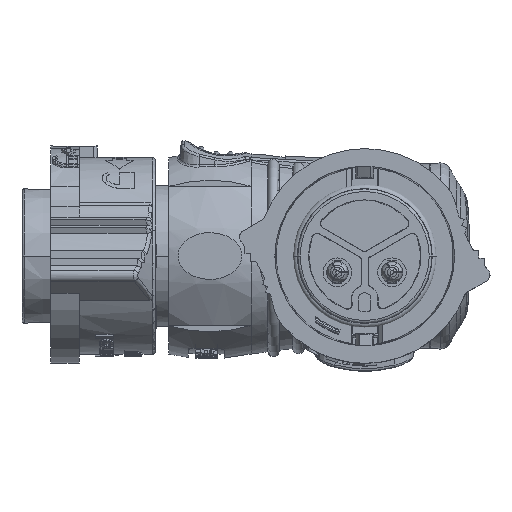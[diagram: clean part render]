
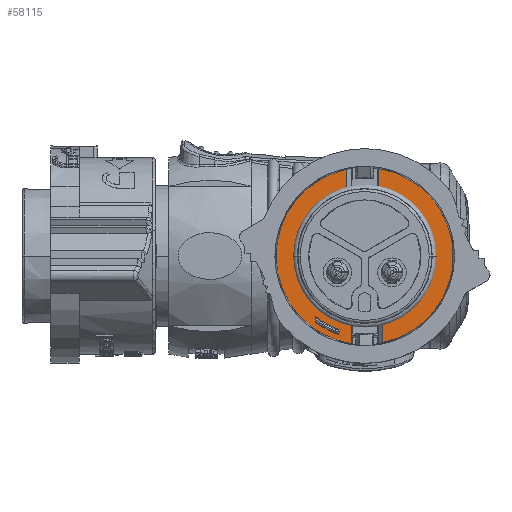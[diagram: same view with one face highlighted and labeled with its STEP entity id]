
A CAD part, left-side view. The second image highlights one B-rep face of the part: STEP entity #58115.
In plain terms, the highlighted planar face has unit normal (-1, 0, 0).
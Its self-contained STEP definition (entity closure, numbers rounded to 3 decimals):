
#13940=CARTESIAN_POINT('',(8.5,0.,0.));
#13941=DIRECTION('',(-1.,0.,0.));
#13942=DIRECTION('',(0.,0.19,-0.982));
#13943=AXIS2_PLACEMENT_3D('',#13940,#13941,#13942);
#13980=CARTESIAN_POINT('',(8.5,0.,0.));
#13981=DIRECTION('',(-1.,0.,0.));
#13982=DIRECTION('',(0.,-0.19,0.982));
#13983=AXIS2_PLACEMENT_3D('',#13980,#13981,#13982);
#14160=CARTESIAN_POINT('',(8.5,-2.,-9.696));
#14165=CARTESIAN_POINT('',(8.5,0.,0.));
#14166=DIRECTION('',(-1.,0.,0.));
#14167=DIRECTION('',(0.,-0.202,-0.979));
#14168=AXIS2_PLACEMENT_3D('',#14165,#14166,#14167);
#14192=DIRECTION('',(0.,0.,-1.));
#14193=VECTOR('',#14192,2.053);
#14194=CARTESIAN_POINT('',(8.5,-2.,-7.643));
#14195=LINE('',#14194,#14193);
#14196=DIRECTION('',(0.,0.,1.));
#14197=VECTOR('',#14196,2.029);
#14198=CARTESIAN_POINT('',(8.5,1.5,-9.786));
#14199=LINE('',#14198,#14197);
#14200=DIRECTION('',(0.,0.,1.));
#14201=VECTOR('',#14200,2.053);
#14202=CARTESIAN_POINT('',(8.5,2.,7.643));
#14203=LINE('',#14202,#14201);
#14204=DIRECTION('',(0.,0.,-1.));
#14205=VECTOR('',#14204,2.029);
#14206=CARTESIAN_POINT('',(8.5,-1.5,9.786));
#14207=LINE('',#14206,#14205);
#14208=CARTESIAN_POINT('',(8.5,-0.132,-0.01));
#14209=DIRECTION('',(-1.,0.,0.));
#14210=DIRECTION('',(0.,0.606,-0.796));
#14211=AXIS2_PLACEMENT_3D('',#14208,#14209,#14210);
#14213=DIRECTION('',(0.,-0.316,0.949));
#14214=VECTOR('',#14213,0.567);
#14215=CARTESIAN_POINT('',(8.5,2.933,-8.791));
#14216=LINE('',#14215,#14214);
#14217=CARTESIAN_POINT('',(8.5,0.,0.));
#14218=DIRECTION('',(-1.,0.,0.));
#14219=DIRECTION('',(0.,0.632,-0.775));
#14220=AXIS2_PLACEMENT_3D('',#14217,#14218,#14219);
#14222=DIRECTION('',(0.,0.,-1.));
#14223=VECTOR('',#14222,0.67);
#14224=CARTESIAN_POINT('',(8.5,5.5,-6.741));
#14225=LINE('',#14224,#14223);
#14226=CARTESIAN_POINT('',(8.5,0.,0.));
#14227=DIRECTION('',(-1.,0.,0.));
#14228=DIRECTION('',(0.,0.998,0.065));
#14229=AXIS2_PLACEMENT_3D('',#14226,#14227,#14228);
#14231=DIRECTION('',(0.,-1.,0.));
#14232=VECTOR('',#14231,0.1);
#14233=CARTESIAN_POINT('',(8.5,7.634,-0.5));
#14234=LINE('',#14233,#14232);
#14235=DIRECTION('',(0.,0.,-1.));
#14236=VECTOR('',#14235,0.1);
#14237=CARTESIAN_POINT('',(8.5,0.5,-7.533));
#14238=LINE('',#14237,#14236);
#14239=CARTESIAN_POINT('',(8.5,0.,0.));
#14240=DIRECTION('',(-1.,0.,0.));
#14241=DIRECTION('',(0.,0.065,-0.998));
#14242=AXIS2_PLACEMENT_3D('',#14239,#14240,#14241);
#14244=DIRECTION('',(0.,0.,1.));
#14245=VECTOR('',#14244,0.1);
#14246=CARTESIAN_POINT('',(8.5,-0.5,-7.634));
#14247=LINE('',#14246,#14245);
#14248=DIRECTION('',(0.,-1.,0.));
#14249=VECTOR('',#14248,0.1);
#14250=CARTESIAN_POINT('',(8.5,-7.533,-0.5));
#14251=LINE('',#14250,#14249);
#14252=CARTESIAN_POINT('',(8.5,0.,0.));
#14253=DIRECTION('',(-1.,0.,0.));
#14254=DIRECTION('',(0.,-0.998,-0.065));
#14255=AXIS2_PLACEMENT_3D('',#14252,#14253,#14254);
#14257=DIRECTION('',(0.,1.,0.));
#14258=VECTOR('',#14257,0.1);
#14259=CARTESIAN_POINT('',(8.5,-7.634,0.5));
#14260=LINE('',#14259,#14258);
#14261=DIRECTION('',(0.,0.,1.));
#14262=VECTOR('',#14261,0.1);
#14263=CARTESIAN_POINT('',(8.5,-0.5,7.533));
#14264=LINE('',#14263,#14262);
#14265=CARTESIAN_POINT('',(8.5,0.,0.));
#14266=DIRECTION('',(-1.,0.,0.));
#14267=DIRECTION('',(0.,-0.065,0.998));
#14268=AXIS2_PLACEMENT_3D('',#14265,#14266,#14267);
#14270=DIRECTION('',(0.,0.,-1.));
#14271=VECTOR('',#14270,0.1);
#14272=CARTESIAN_POINT('',(8.5,0.5,7.634));
#14273=LINE('',#14272,#14271);
#14274=DIRECTION('',(0.,1.,0.));
#14275=VECTOR('',#14274,0.1);
#14276=CARTESIAN_POINT('',(8.5,7.533,0.5));
#14277=LINE('',#14276,#14275);
#14311=CARTESIAN_POINT('',(8.5,2.,9.696));
#14316=CARTESIAN_POINT('',(8.5,0.,0.));
#14317=DIRECTION('',(-1.,0.,0.));
#14318=DIRECTION('',(0.,0.202,0.979));
#14319=AXIS2_PLACEMENT_3D('',#14316,#14317,#14318);
#22615=CARTESIAN_POINT('',(8.5,0.,0.));
#22616=DIRECTION('',(1.,0.,0.));
#22617=DIRECTION('',(0.,0.066,-0.998));
#22618=AXIS2_PLACEMENT_3D('',#22615,#22616,#22617);
#22645=CARTESIAN_POINT('',(8.5,0.,0.));
#22646=DIRECTION('',(1.,0.,0.));
#22647=DIRECTION('',(0.,-0.998,-0.066));
#22648=AXIS2_PLACEMENT_3D('',#22645,#22646,#22647);
#22671=CARTESIAN_POINT('',(8.5,0.,0.));
#22672=DIRECTION('',(1.,0.,0.));
#22673=DIRECTION('',(0.,-0.066,0.998));
#22674=AXIS2_PLACEMENT_3D('',#22671,#22672,#22673);
#22688=CARTESIAN_POINT('',(8.5,0.,0.));
#22689=DIRECTION('',(1.,0.,0.));
#22690=DIRECTION('',(0.,0.998,0.066));
#22691=AXIS2_PLACEMENT_3D('',#22688,#22689,#22690);
#38994=CARTESIAN_POINT('',(8.5,1.5,-9.786));
#38995=CARTESIAN_POINT('',(8.5,1.5,-7.756));
#38996=VERTEX_POINT('',#38994);
#38997=VERTEX_POINT('',#38995);
#38998=CARTESIAN_POINT('',(8.5,-1.5,9.786));
#38999=CARTESIAN_POINT('',(8.5,-1.5,7.756));
#39000=VERTEX_POINT('',#38998);
#39001=VERTEX_POINT('',#38999);
#39144=CARTESIAN_POINT('',(8.5,5.5,-7.411));
#39145=CARTESIAN_POINT('',(8.5,2.933,-8.791));
#39146=VERTEX_POINT('',#39144);
#39147=VERTEX_POINT('',#39145);
#39148=CARTESIAN_POINT('',(8.5,5.5,-6.741));
#39149=CARTESIAN_POINT('',(8.5,2.753,-8.253));
#39150=VERTEX_POINT('',#39148);
#39151=VERTEX_POINT('',#39149);
#39204=VERTEX_POINT('',#14160);
#39208=CARTESIAN_POINT('',(8.5,-2.,-7.643));
#39209=VERTEX_POINT('',#39208);
#39210=VERTEX_POINT('',#14311);
#39214=CARTESIAN_POINT('',(8.5,2.,7.643));
#39215=VERTEX_POINT('',#39214);
#39266=CARTESIAN_POINT('',(8.5,0.5,7.533));
#39268=VERTEX_POINT('',#39266);
#39269=CARTESIAN_POINT('',(8.5,-0.5,7.533));
#39271=VERTEX_POINT('',#39269);
#39277=CARTESIAN_POINT('',(8.5,-0.5,7.634));
#39278=CARTESIAN_POINT('',(8.5,0.5,7.634));
#39279=VERTEX_POINT('',#39277);
#39280=VERTEX_POINT('',#39278);
#39282=CARTESIAN_POINT('',(8.5,-7.533,0.5));
#39284=VERTEX_POINT('',#39282);
#39285=CARTESIAN_POINT('',(8.5,-7.533,-0.5));
#39287=VERTEX_POINT('',#39285);
#39293=CARTESIAN_POINT('',(8.5,-7.634,-0.5));
#39294=VERTEX_POINT('',#39293);
#39295=CARTESIAN_POINT('',(8.5,-7.634,0.5));
#39296=VERTEX_POINT('',#39295);
#39298=CARTESIAN_POINT('',(8.5,-0.5,-7.533));
#39300=VERTEX_POINT('',#39298);
#39301=CARTESIAN_POINT('',(8.5,0.5,-7.533));
#39303=VERTEX_POINT('',#39301);
#39309=CARTESIAN_POINT('',(8.5,0.5,-7.634));
#39310=VERTEX_POINT('',#39309);
#39311=CARTESIAN_POINT('',(8.5,-0.5,-7.634));
#39312=VERTEX_POINT('',#39311);
#39314=CARTESIAN_POINT('',(8.5,7.533,-0.5));
#39316=VERTEX_POINT('',#39314);
#39317=CARTESIAN_POINT('',(8.5,7.533,0.5));
#39319=VERTEX_POINT('',#39317);
#39325=CARTESIAN_POINT('',(8.5,7.634,0.5));
#39326=VERTEX_POINT('',#39325);
#39327=CARTESIAN_POINT('',(8.5,7.634,-0.5));
#39328=VERTEX_POINT('',#39327);
#58052=CARTESIAN_POINT('',(8.5,0.,0.));
#58053=DIRECTION('',(1.,0.,0.));
#58054=DIRECTION('',(0.,1.,0.));
#58055=AXIS2_PLACEMENT_3D('',#58052,#58053,#58054);
#58056=PLANE('',#58055);
#58057=ORIENTED_EDGE('',*,*,#58047,.F.);
#58058=ORIENTED_EDGE('',*,*,#57760,.F.);
#58060=ORIENTED_EDGE('',*,*,#58059,.F.);
#58062=ORIENTED_EDGE('',*,*,#58061,.F.);
#58064=ORIENTED_EDGE('',*,*,#58063,.F.);
#58065=ORIENTED_EDGE('',*,*,#57799,.F.);
#58067=ORIENTED_EDGE('',*,*,#58066,.F.);
#58068=ORIENTED_EDGE('',*,*,#58018,.F.);
#58069=EDGE_LOOP('',(#58057,#58058,#58060,#58062,#58064,#58065,#58067,#58068));
#58070=FACE_OUTER_BOUND('',#58069,.F.);
#58072=ORIENTED_EDGE('',*,*,#58071,.T.);
#58074=ORIENTED_EDGE('',*,*,#58073,.T.);
#58076=ORIENTED_EDGE('',*,*,#58075,.F.);
#58078=ORIENTED_EDGE('',*,*,#58077,.T.);
#58079=EDGE_LOOP('',(#58072,#58074,#58076,#58078));
#58080=FACE_BOUND('',#58079,.F.);
#58082=ORIENTED_EDGE('',*,*,#58081,.T.);
#58084=ORIENTED_EDGE('',*,*,#58083,.T.);
#58086=ORIENTED_EDGE('',*,*,#58085,.F.);
#58088=ORIENTED_EDGE('',*,*,#58087,.T.);
#58090=ORIENTED_EDGE('',*,*,#58089,.T.);
#58092=ORIENTED_EDGE('',*,*,#58091,.T.);
#58094=ORIENTED_EDGE('',*,*,#58093,.F.);
#58096=ORIENTED_EDGE('',*,*,#58095,.T.);
#58098=ORIENTED_EDGE('',*,*,#58097,.T.);
#58100=ORIENTED_EDGE('',*,*,#58099,.T.);
#58102=ORIENTED_EDGE('',*,*,#58101,.F.);
#58104=ORIENTED_EDGE('',*,*,#58103,.T.);
#58106=ORIENTED_EDGE('',*,*,#58105,.T.);
#58108=ORIENTED_EDGE('',*,*,#58107,.T.);
#58110=ORIENTED_EDGE('',*,*,#58109,.F.);
#58112=ORIENTED_EDGE('',*,*,#58111,.T.);
#58113=EDGE_LOOP('',(#58082,#58084,#58086,#58088,#58090,#58092,#58094,#58096,
#58098,#58100,#58102,#58104,#58106,#58108,#58110,#58112));
#58114=FACE_BOUND('',#58113,.F.);
#58115=ADVANCED_FACE('',(#58070,#58080,#58114),#58056,.F.);
#13944=CIRCLE('',#13943,7.9);
#13984=CIRCLE('',#13983,7.9);
#14169=CIRCLE('',#14168,9.9);
#14212=CIRCLE('',#14211,9.3);
#14221=CIRCLE('',#14220,8.7);
#14230=CIRCLE('',#14229,7.65);
#14243=CIRCLE('',#14242,7.65);
#14256=CIRCLE('',#14255,7.65);
#14269=CIRCLE('',#14268,7.65);
#14320=CIRCLE('',#14319,9.9);
#22619=CIRCLE('',#22618,7.55);
#22649=CIRCLE('',#22648,7.55);
#22675=CIRCLE('',#22674,7.55);
#22692=CIRCLE('',#22691,7.55);
#57760=EDGE_CURVE('',#38997,#39209,#13944,.T.);
#57799=EDGE_CURVE('',#39001,#39215,#13984,.T.);
#58018=EDGE_CURVE('',#39204,#39000,#14169,.T.);
#58047=EDGE_CURVE('',#39209,#39204,#14195,.T.);
#58059=EDGE_CURVE('',#38996,#38997,#14199,.T.);
#58061=EDGE_CURVE('',#39210,#38996,#14320,.T.);
#58063=EDGE_CURVE('',#39215,#39210,#14203,.T.);
#58066=EDGE_CURVE('',#39000,#39001,#14207,.T.);
#58071=EDGE_CURVE('',#39146,#39147,#14212,.T.);
#58073=EDGE_CURVE('',#39147,#39151,#14216,.T.);
#58075=EDGE_CURVE('',#39150,#39151,#14221,.T.);
#58077=EDGE_CURVE('',#39150,#39146,#14225,.T.);
#58081=EDGE_CURVE('',#39326,#39328,#14230,.T.);
#58083=EDGE_CURVE('',#39328,#39316,#14234,.T.);
#58085=EDGE_CURVE('',#39303,#39316,#22619,.T.);
#58087=EDGE_CURVE('',#39303,#39310,#14238,.T.);
#58089=EDGE_CURVE('',#39310,#39312,#14243,.T.);
#58091=EDGE_CURVE('',#39312,#39300,#14247,.T.);
#58093=EDGE_CURVE('',#39287,#39300,#22649,.T.);
#58095=EDGE_CURVE('',#39287,#39294,#14251,.T.);
#58097=EDGE_CURVE('',#39294,#39296,#14256,.T.);
#58099=EDGE_CURVE('',#39296,#39284,#14260,.T.);
#58101=EDGE_CURVE('',#39271,#39284,#22675,.T.);
#58103=EDGE_CURVE('',#39271,#39279,#14264,.T.);
#58105=EDGE_CURVE('',#39279,#39280,#14269,.T.);
#58107=EDGE_CURVE('',#39280,#39268,#14273,.T.);
#58109=EDGE_CURVE('',#39319,#39268,#22692,.T.);
#58111=EDGE_CURVE('',#39319,#39326,#14277,.T.);
